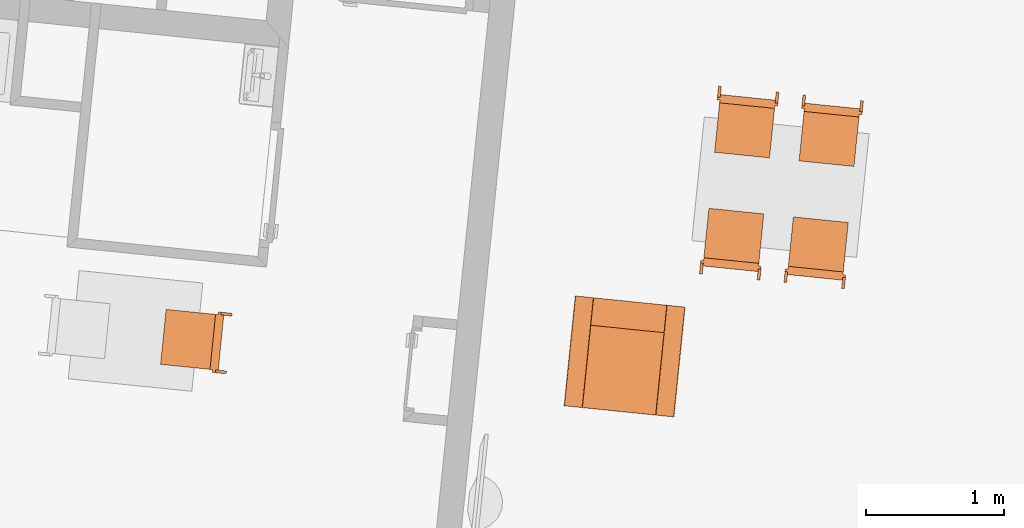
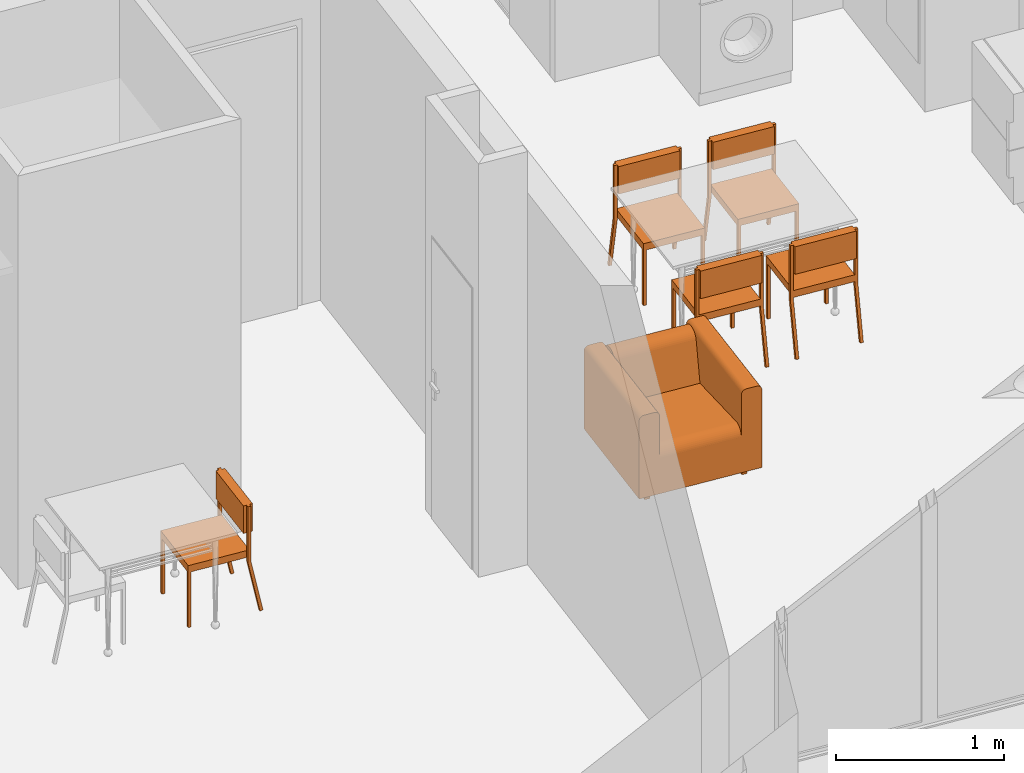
# One storey, part 164 of 171: 6 proxies.
"""IFC2X3 building model written with IfcOpenShell, lengths in millimetres."""

from ifc_helpers import new_model, entity, si_unit, converted_unit, derived_unit, money_unit, direction, frame, origin_with_axes, place, context, subcontext, project, spatial, faceted_brep, source, transform, mapped, type_object, element, save


model = new_model("IFC2X3")

# Units and contexts
model_context = context("Model", 3, precision=0.01, world=origin_with_axes(), true_north=direction((0.0, 1.0)))
body_context = subcontext(model_context, "Body", "Model", "MODEL_VIEW")
ifc_project = project(units=[si_unit("LENGTHUNIT", "METRE", prefix="MILLI"), si_unit("AREAUNIT", "SQUARE_METRE"), si_unit("VOLUMEUNIT", "CUBIC_METRE"), converted_unit("PLANEANGLEUNIT", "DEGREE", entity("IfcPlaneAngleMeasure", 0.0174532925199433), si_unit("PLANEANGLEUNIT", "RADIAN"), dimensions=[0, 0, 0, 0, 0, 0, 0]), money_unit("USD"), converted_unit("TIMEUNIT", "Year", entity("IfcTimeMeasure", 31557600.0), si_unit("TIMEUNIT", "SECOND"), dimensions=[0, 0, 1, 0, 0, 0, 0]), si_unit("MASSUNIT", "GRAM", prefix="KILO"), si_unit("THERMODYNAMICTEMPERATUREUNIT", "DEGREE_CELSIUS"), si_unit("LUMINOUSINTENSITYUNIT", "LUMEN"), si_unit("ENERGYUNIT", "JOULE", prefix="MEGA"), derived_unit("THERMALCONDUCTANCEUNIT", [(si_unit("POWERUNIT", "WATT"), 1), (si_unit("LENGTHUNIT", "METRE"), -1), (si_unit("THERMODYNAMICTEMPERATUREUNIT", "KELVIN"), -1)]), derived_unit("SPECIFICHEATCAPACITYUNIT", [(si_unit("ENERGYUNIT", "JOULE"), 1), (si_unit("MASSUNIT", "GRAM", prefix="KILO"), -1), (si_unit("THERMODYNAMICTEMPERATUREUNIT", "KELVIN"), -1)]), derived_unit("MASSDENSITYUNIT", [(si_unit("MASSUNIT", "GRAM", prefix="KILO"), 1), (si_unit("VOLUMEUNIT", "CUBIC_METRE"), -1)])], contexts=[model_context])

# Site, building, storey
site_placement = place(None, origin_with_axes())
site = spatial("IfcSite", under=ifc_project, at=site_placement, Name="Site", CompositionType="ELEMENT")
building_placement = place(site_placement, origin_with_axes())
building = spatial("IfcBuilding", under=site, at=building_placement, Name="Bâtiment", CompositionType="ELEMENT")
storey_placement = place(building_placement, frame((0.0, 0.0, 3000.0), z_axis=(0.0, 0.0, 1.0), x_axis=(1.0, 0.0, 0.0)))
storey = spatial("IfcBuildingStorey", under=building, at=storey_placement, Name="rdc", CompositionType="ELEMENT", Elevation=3000.0)

# Proxies
building_element_proxy_type = type_object("IfcBuildingElementProxyType", PredefinedType="NOTDEFINED")
shared_shape_1 = source(origin_with_axes(), body_context, "Body", "Brep", [
    faceted_brep([(39.99999978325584, 0.0, 0.0), (19.99999989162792, 0.0, 0.0), (19.99999989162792, 19.99999936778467, 0.0), (39.99999978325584, 19.99999936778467, 0.0), (39.99999978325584, 0.0, 400.0), (19.99999989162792, 0.0, 400.0), (19.99999989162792, 19.99999936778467, 400.0), (39.99999978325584, 19.99999936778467, 400.0)], [[[0, 1, 2, 3]], [[1, 0, 4, 5]], [[2, 1, 5, 6]], [[3, 2, 6, 7]], [[0, 3, 7, 4]], [[5, 4, 7, 6]]]),
    faceted_brep([(419.9999977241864, 0.0, 0.0), (399.9999978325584, 0.0, 0.0), (399.9999978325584, 19.99999936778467, 0.0), (419.9999977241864, 19.99999936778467, 0.0), (419.9999977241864, 0.0, 400.0), (399.9999978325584, 0.0, 400.0), (399.9999978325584, 19.99999936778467, 400.0), (419.9999977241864, 19.99999936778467, 400.0)], [[[0, 1, 2, 3]], [[1, 0, 4, 5]], [[2, 1, 5, 6]], [[3, 2, 6, 7]], [[0, 3, 7, 4]], [[5, 4, 7, 6]]]),
    faceted_brep([(399.9999978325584, 0.0, 400.0000000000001), (39.99999978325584, 0.0, 400.0000000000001), (39.99999978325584, 19.99999936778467, 400.0000000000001), (399.9999978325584, 19.99999936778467, 400.0000000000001), (399.9999978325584, 0.0, 420.0000000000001), (39.99999978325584, 0.0, 420.0000000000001), (39.99999978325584, 19.99999936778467, 420.0000000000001), (399.9999978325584, 19.99999936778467, 420.0000000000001)], [[[0, 1, 2, 3]], [[1, 0, 4, 5]], [[2, 1, 5, 6]], [[3, 2, 6, 7]], [[0, 3, 7, 4]], [[5, 4, 7, 6]]]),
    faceted_brep([(39.99999978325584, 19.99999936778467, 400.0000000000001), (19.99999989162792, 19.99999936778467, 400.0000000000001), (19.99999989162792, 379.9999879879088, 400.0000000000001), (39.99999978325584, 379.9999879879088, 400.0000000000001), (39.99999978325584, 19.99999936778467, 420.0000000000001), (19.99999989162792, 19.99999936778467, 420.0000000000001), (19.99999989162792, 379.9999879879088, 420.0000000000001), (39.99999978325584, 379.9999879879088, 420.0000000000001)], [[[0, 1, 2, 3]], [[1, 0, 4, 5]], [[2, 1, 5, 6]], [[3, 2, 6, 7]], [[0, 3, 7, 4]], [[5, 4, 7, 6]]]),
    faceted_brep([(419.9999977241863, 379.9999879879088, 400.0000000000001), (19.99999989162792, 379.9999879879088, 400.0000000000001), (19.99999989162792, 399.9999873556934, 400.0000000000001), (419.9999977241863, 399.9999873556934, 400.0000000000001), (419.9999977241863, 379.9999879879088, 420.0000000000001), (19.99999989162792, 379.9999879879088, 420.0000000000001), (19.99999989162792, 399.9999873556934, 420.0000000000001), (419.9999977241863, 399.9999873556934, 420.0000000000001)], [[[0, 1, 2, 3]], [[1, 0, 4, 5]], [[2, 1, 5, 6]], [[3, 2, 6, 7]], [[0, 3, 7, 4]], [[5, 4, 7, 6]]]),
    faceted_brep([(419.9999977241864, 19.99999936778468, 400.0000000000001), (399.9999978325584, 19.99999936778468, 400.0000000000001), (399.9999978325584, 379.9999879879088, 400.0000000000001), (419.9999977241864, 379.9999879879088, 400.0000000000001), (419.9999977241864, 19.99999936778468, 420.0000000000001), (399.9999978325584, 19.99999936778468, 420.0000000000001), (399.9999978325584, 379.9999879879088, 420.0000000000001), (419.9999977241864, 379.9999879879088, 420.0000000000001)], [[[0, 1, 2, 3]], [[1, 0, 4, 5]], [[2, 1, 5, 6]], [[3, 2, 6, 7]], [[0, 3, 7, 4]], [[5, 4, 7, 6]]]),
    faceted_brep([(419.9999977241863, 0.0, 400.0), (19.99999989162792, 0.0, 400.0), (19.99999989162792, 399.9999873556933, 400.0), (419.9999977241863, 399.9999873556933, 400.0), (419.9999977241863, 0.0, 450.0), (19.99999989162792, 0.0, 450.0), (19.99999989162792, 399.9999873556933, 450.0), (419.9999977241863, 399.9999873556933, 450.0)], [[[0, 1, 2, 3]], [[1, 0, 4, 5]], [[2, 1, 5, 6]], [[3, 2, 6, 7]], [[0, 3, 7, 4]], [[5, 4, 7, 6]]]),
    faceted_brep([(19.99999989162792, 379.9999879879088, 380.0), (0.0, 379.9999879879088, 380.0), (0.0, 399.9999873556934, 380.0), (19.99999989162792, 399.9999873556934, 380.0), (19.99999989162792, 379.9999879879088, 780.0), (0.0, 379.9999879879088, 780.0), (0.0, 399.9999873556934, 780.0), (19.99999989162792, 399.9999873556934, 780.0)], [[[0, 1, 2, 3]], [[1, 0, 4, 5]], [[2, 1, 5, 6]], [[3, 2, 6, 7]], [[0, 3, 7, 4]], [[5, 4, 7, 6]]]),
    faceted_brep([(439.9999976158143, 379.9999879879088, 380.0), (419.9999977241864, 379.9999879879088, 380.0), (419.9999977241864, 399.9999873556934, 380.0), (439.9999976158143, 399.9999873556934, 380.0), (439.9999976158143, 379.9999879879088, 780.0), (419.9999977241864, 379.9999879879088, 780.0), (419.9999977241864, 399.9999873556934, 780.0), (439.9999976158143, 399.9999873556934, 780.0)], [[[0, 1, 2, 3]], [[1, 0, 4, 5]], [[2, 1, 5, 6]], [[3, 2, 6, 7]], [[0, 3, 7, 4]], [[5, 4, 7, 6]]]),
    faceted_brep([(419.9999977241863, 359.999988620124, 580.0000000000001), (19.99999989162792, 359.999988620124, 580.0000000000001), (19.99999989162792, 419.9999867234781, 580.0000000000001), (419.9999977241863, 419.9999867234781, 580.0000000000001), (419.9999977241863, 359.999988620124, 780.0), (19.99999989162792, 359.999988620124, 780.0), (19.99999989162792, 419.9999867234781, 780.0), (419.9999977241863, 419.9999867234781, 780.0)], [[[0, 1, 2, 3]], [[1, 0, 4, 5]], [[2, 1, 5, 6]], [[3, 2, 6, 7]], [[0, 3, 7, 4]], [[5, 4, 7, 6]]]),
    faceted_brep([(19.99999989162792, 459.9999854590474, 0.0), (0.0, 459.9999854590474, 0.0), (0.0, 479.5709559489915, 4.120326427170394), (19.99999989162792, 479.5709559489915, 4.120326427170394), (19.99999989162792, 379.997669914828, 379.999760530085), (0.0, 379.997669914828, 379.999760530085), (0.0, 399.5686404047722, 384.1200869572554), (19.99999989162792, 399.5686404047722, 384.1200869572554)], [[[0, 1, 2, 3]], [[1, 0, 4, 5]], [[2, 1, 5, 6]], [[3, 2, 6, 7]], [[0, 3, 7, 4]], [[5, 4, 7, 6]]]),
    faceted_brep([(439.9999976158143, 459.9999854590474, 0.0), (419.9999977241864, 459.9999854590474, 0.0), (419.9999977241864, 479.5709559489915, 4.120326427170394), (439.9999976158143, 479.5709559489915, 4.120326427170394), (439.9999976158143, 379.997669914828, 379.999760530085), (419.9999977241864, 379.997669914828, 379.999760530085), (419.9999977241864, 399.5686404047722, 384.1200869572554), (439.9999976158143, 399.5686404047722, 384.1200869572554)], [[[0, 1, 2, 3]], [[1, 0, 4, 5]], [[2, 1, 5, 6]], [[3, 2, 6, 7]], [[0, 3, 7, 4]], [[5, 4, 7, 6]]]),
])
for number, where, z_axis, x_axis, name in (
    (1, (2231889.249444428, -617069.9074694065, 0.0), (0.0, 0.0, 1.0), (-0.100595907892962, -0.9949273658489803, 0.0), "Obj.-027"),
    (2, (2236452.961935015, -616011.5963356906, 0.0), (0.0, 0.0, 1.0), (0.9948759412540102, -0.1011032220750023, 0.0), "Obj.-027"),
    (3, (2235840.988468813, -615949.4051753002, 0.0), (0.0, 0.0, 1.0), (0.9948759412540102, -0.1011032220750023, 0.0), "Obj.-027"),
):
    element("IfcBuildingElementProxy", number, at=place(storey_placement, frame(where, z_axis=z_axis, x_axis=x_axis)), inside=storey, type_object=building_element_proxy_type, Name=name, context=body_context, shape_type="MappedRepresentation", body=[
        mapped(shared_shape_1, transform((0.0, 0.0, 0.0))),
    ])
shared_shape_2 = source(origin_with_axes(), body_context, "Body", "Brep", [
    faceted_brep([(-39.99999978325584, 0.0, 0.0), (-39.99999978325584, 19.99999936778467, 0.0), (-19.99999989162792, 19.99999936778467, 0.0), (-19.99999989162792, 0.0, 0.0), (-39.99999978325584, 0.0, 400.0), (-39.99999978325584, 19.99999936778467, 400.0), (-19.99999989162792, 19.99999936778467, 400.0), (-19.99999989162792, 0.0, 400.0)], [[[0, 1, 2, 3]], [[0, 4, 5, 1]], [[1, 5, 6, 2]], [[2, 6, 7, 3]], [[3, 7, 4, 0]], [[7, 6, 5, 4]]]),
    faceted_brep([(-419.9999977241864, 0.0, 0.0), (-419.9999977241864, 19.99999936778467, 0.0), (-399.9999978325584, 19.99999936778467, 0.0), (-399.9999978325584, 0.0, 0.0), (-419.9999977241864, 0.0, 400.0), (-419.9999977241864, 19.99999936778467, 400.0), (-399.9999978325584, 19.99999936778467, 400.0), (-399.9999978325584, 0.0, 400.0)], [[[0, 1, 2, 3]], [[0, 4, 5, 1]], [[1, 5, 6, 2]], [[2, 6, 7, 3]], [[3, 7, 4, 0]], [[7, 6, 5, 4]]]),
    faceted_brep([(-399.9999978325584, 0.0, 400.0000000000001), (-399.9999978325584, 19.99999936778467, 400.0000000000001), (-39.99999978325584, 19.99999936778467, 400.0000000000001), (-39.99999978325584, 0.0, 400.0000000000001), (-399.9999978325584, 0.0, 420.0000000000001), (-399.9999978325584, 19.99999936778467, 420.0000000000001), (-39.99999978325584, 19.99999936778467, 420.0000000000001), (-39.99999978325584, 0.0, 420.0000000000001)], [[[0, 1, 2, 3]], [[0, 4, 5, 1]], [[1, 5, 6, 2]], [[2, 6, 7, 3]], [[3, 7, 4, 0]], [[7, 6, 5, 4]]]),
    faceted_brep([(-39.99999978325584, 19.99999936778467, 400.0000000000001), (-39.99999978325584, 379.9999879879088, 400.0000000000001), (-19.99999989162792, 379.9999879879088, 400.0000000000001), (-19.99999989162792, 19.99999936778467, 400.0000000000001), (-39.99999978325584, 19.99999936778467, 420.0000000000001), (-39.99999978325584, 379.9999879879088, 420.0000000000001), (-19.99999989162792, 379.9999879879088, 420.0000000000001), (-19.99999989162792, 19.99999936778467, 420.0000000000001)], [[[0, 1, 2, 3]], [[0, 4, 5, 1]], [[1, 5, 6, 2]], [[2, 6, 7, 3]], [[3, 7, 4, 0]], [[7, 6, 5, 4]]]),
    faceted_brep([(-419.9999977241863, 379.9999879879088, 400.0000000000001), (-419.9999977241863, 399.9999873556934, 400.0000000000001), (-19.99999989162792, 399.9999873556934, 400.0000000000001), (-19.99999989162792, 379.9999879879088, 400.0000000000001), (-419.9999977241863, 379.9999879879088, 420.0000000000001), (-419.9999977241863, 399.9999873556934, 420.0000000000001), (-19.99999989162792, 399.9999873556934, 420.0000000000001), (-19.99999989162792, 379.9999879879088, 420.0000000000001)], [[[0, 1, 2, 3]], [[0, 4, 5, 1]], [[1, 5, 6, 2]], [[2, 6, 7, 3]], [[3, 7, 4, 0]], [[7, 6, 5, 4]]]),
    faceted_brep([(-419.9999977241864, 19.99999936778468, 400.0000000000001), (-419.9999977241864, 379.9999879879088, 400.0000000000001), (-399.9999978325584, 379.9999879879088, 400.0000000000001), (-399.9999978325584, 19.99999936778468, 400.0000000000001), (-419.9999977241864, 19.99999936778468, 420.0000000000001), (-419.9999977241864, 379.9999879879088, 420.0000000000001), (-399.9999978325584, 379.9999879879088, 420.0000000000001), (-399.9999978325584, 19.99999936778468, 420.0000000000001)], [[[0, 1, 2, 3]], [[0, 4, 5, 1]], [[1, 5, 6, 2]], [[2, 6, 7, 3]], [[3, 7, 4, 0]], [[7, 6, 5, 4]]]),
    faceted_brep([(-419.9999977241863, 0.0, 400.0), (-419.9999977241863, 399.9999873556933, 400.0), (-19.99999989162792, 399.9999873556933, 400.0), (-19.99999989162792, 0.0, 400.0), (-419.9999977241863, 0.0, 450.0), (-419.9999977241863, 399.9999873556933, 450.0), (-19.99999989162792, 399.9999873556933, 450.0), (-19.99999989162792, 0.0, 450.0)], [[[0, 1, 2, 3]], [[0, 4, 5, 1]], [[1, 5, 6, 2]], [[2, 6, 7, 3]], [[3, 7, 4, 0]], [[7, 6, 5, 4]]]),
    faceted_brep([(-19.99999989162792, 379.9999879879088, 380.0), (-19.99999989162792, 399.9999873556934, 380.0), (0.0, 399.9999873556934, 380.0), (0.0, 379.9999879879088, 380.0), (-19.99999989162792, 379.9999879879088, 780.0), (-19.99999989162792, 399.9999873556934, 780.0), (0.0, 399.9999873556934, 780.0), (0.0, 379.9999879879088, 780.0)], [[[0, 1, 2, 3]], [[0, 4, 5, 1]], [[1, 5, 6, 2]], [[2, 6, 7, 3]], [[3, 7, 4, 0]], [[7, 6, 5, 4]]]),
    faceted_brep([(-439.9999976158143, 379.9999879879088, 380.0), (-439.9999976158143, 399.9999873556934, 380.0), (-419.9999977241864, 399.9999873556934, 380.0), (-419.9999977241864, 379.9999879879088, 380.0), (-439.9999976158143, 379.9999879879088, 780.0), (-439.9999976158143, 399.9999873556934, 780.0), (-419.9999977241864, 399.9999873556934, 780.0), (-419.9999977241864, 379.9999879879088, 780.0)], [[[0, 1, 2, 3]], [[0, 4, 5, 1]], [[1, 5, 6, 2]], [[2, 6, 7, 3]], [[3, 7, 4, 0]], [[7, 6, 5, 4]]]),
    faceted_brep([(-419.9999977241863, 359.999988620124, 580.0000000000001), (-419.9999977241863, 419.9999867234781, 580.0000000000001), (-19.99999989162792, 419.9999867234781, 580.0000000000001), (-19.99999989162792, 359.999988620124, 580.0000000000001), (-419.9999977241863, 359.999988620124, 780.0), (-419.9999977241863, 419.9999867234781, 780.0), (-19.99999989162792, 419.9999867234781, 780.0), (-19.99999989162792, 359.999988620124, 780.0)], [[[0, 1, 2, 3]], [[0, 4, 5, 1]], [[1, 5, 6, 2]], [[2, 6, 7, 3]], [[3, 7, 4, 0]], [[7, 6, 5, 4]]]),
    faceted_brep([(-19.99999989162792, 459.9999854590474, 0.0), (-19.99999989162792, 479.5709559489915, 4.120326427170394), (0.0, 479.5709559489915, 4.120326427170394), (0.0, 459.9999854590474, 0.0), (-19.99999989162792, 379.997669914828, 379.999760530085), (-19.99999989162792, 399.5686404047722, 384.1200869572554), (0.0, 399.5686404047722, 384.1200869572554), (0.0, 379.997669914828, 379.999760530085)], [[[0, 1, 2, 3]], [[0, 4, 5, 1]], [[1, 5, 6, 2]], [[2, 6, 7, 3]], [[3, 7, 4, 0]], [[7, 6, 5, 4]]]),
    faceted_brep([(-439.9999976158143, 459.9999854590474, 0.0), (-439.9999976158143, 479.5709559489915, 4.120326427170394), (-419.9999977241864, 479.5709559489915, 4.120326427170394), (-419.9999977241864, 459.9999854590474, 0.0), (-439.9999976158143, 379.997669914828, 379.999760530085), (-439.9999976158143, 399.5686404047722, 384.1200869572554), (-419.9999977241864, 399.5686404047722, 384.1200869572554), (-419.9999977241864, 379.997669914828, 379.999760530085)], [[[0, 1, 2, 3]], [[0, 4, 5, 1]], [[1, 5, 6, 2]], [[2, 6, 7, 3]], [[3, 7, 4, 0]], [[7, 6, 5, 4]]]),
])
for number, where, z_axis, x_axis, name in (
    (4, (2235799.73255254, -616355.3716486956, 0.0), (0.0, 0.0, 1.0), (-0.9948759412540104, 0.1011032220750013, 0.0), "Obj.-027"),
    (5, (2236411.706018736, -616417.5628091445, 0.0), (0.0, 0.0, 1.0), (-0.9948759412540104, 0.1011032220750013, 0.0), "Obj.-027"),
):
    element("IfcBuildingElementProxy", number, at=place(storey_placement, frame(where, z_axis=z_axis, x_axis=x_axis)), inside=storey, type_object=building_element_proxy_type, Name=name, context=body_context, shape_type="MappedRepresentation", body=[
        mapped(shared_shape_2, transform((0.0, 0.0, 0.0))),
    ])
shared_shape_3 = source(origin_with_axes(), body_context, "Body", "Brep", [
    faceted_brep([(333.3000000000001, 66.7, 0.0), (300.0000000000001, 66.7, 0.0), (300.0000000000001, 100.0, 0.0), (333.3000000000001, 100.0, 0.0), (333.3000000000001, 66.7, 66.69999999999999), (300.0000000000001, 66.7, 66.69999999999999), (300.0000000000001, 100.0, 66.69999999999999), (333.3000000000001, 100.0, 66.69999999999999)], [[[0, 1, 2, 3]], [[1, 0, 4, 5]], [[2, 1, 5, 6]], [[3, 2, 6, 7]], [[0, 3, 7, 4]], [[5, 4, 7, 6]]]),
    faceted_brep([(333.3000000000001, 700.0000000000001, 0.0), (300.0000000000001, 700.0000000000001, 0.0), (300.0000000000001, 733.3000000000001, 0.0), (333.3000000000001, 733.3000000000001, 0.0), (333.3000000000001, 700.0000000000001, 66.69999999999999), (300.0000000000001, 700.0000000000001, 66.69999999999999), (300.0000000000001, 733.3000000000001, 66.69999999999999), (333.3000000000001, 733.3000000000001, 66.69999999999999)], [[[0, 1, 2, 3]], [[1, 0, 4, 5]], [[2, 1, 5, 6]], [[3, 2, 6, 7]], [[0, 3, 7, 4]], [[5, 4, 7, 6]]]),
    faceted_brep([(-300.0000000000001, 66.7, 0.0), (-333.3000000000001, 66.7, 0.0), (-333.3000000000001, 100.0, 0.0), (-300.0000000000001, 100.0, 0.0), (-300.0000000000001, 66.7, 66.69999999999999), (-333.3000000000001, 66.7, 66.69999999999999), (-333.3000000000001, 100.0, 66.69999999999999), (-300.0000000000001, 100.0, 66.69999999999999)], [[[0, 1, 2, 3]], [[1, 0, 4, 5]], [[2, 1, 5, 6]], [[3, 2, 6, 7]], [[0, 3, 7, 4]], [[5, 4, 7, 6]]]),
    faceted_brep([(-300.0000000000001, 700.0000000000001, 0.0), (-333.3000000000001, 700.0000000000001, 0.0), (-333.3000000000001, 733.3000000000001, 0.0), (-300.0000000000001, 733.3000000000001, 0.0), (-300.0000000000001, 700.0000000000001, 66.69999999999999), (-333.3000000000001, 700.0000000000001, 66.69999999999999), (-333.3000000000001, 733.3000000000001, 66.69999999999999), (-300.0000000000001, 733.3000000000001, 66.69999999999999)], [[[0, 1, 2, 3]], [[1, 0, 4, 5]], [[2, 1, 5, 6]], [[3, 2, 6, 7]], [[0, 3, 7, 4]], [[5, 4, 7, 6]]]),
    faceted_brep([(266.7, 800.0, 66.69999999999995), (400.033, 800.0, 66.69999999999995), (400.033, 0.0, 66.69999999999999), (266.7, 0.0, 66.69999999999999), (266.7, 800.0, 67.19999999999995), (266.7, 800.0, 633.37), (266.7, 800.0, 636.2859999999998), (267.713, 800.0, 642.029), (269.707, 800.0, 647.5099999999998), (272.623, 800.0, 652.5599999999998), (276.372, 800.0, 657.0279999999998), (280.84, 800.0, 660.7769999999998), (285.89, 800.0, 663.6929999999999), (291.371, 800.0, 665.6869999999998), (297.114, 800.0, 666.6999999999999), (300.03, 800.0, 666.6999999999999), (366.703, 800.0, 666.6999999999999), (369.619, 800.0, 666.6999999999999), (375.363, 800.0, 665.6869999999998), (380.843, 800.0, 663.6929999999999), (385.894, 800.0, 660.7769999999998), (390.361, 800.0, 657.0279999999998), (394.11, 800.0, 652.5599999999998), (397.026, 800.0, 647.5099999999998), (399.021, 800.0, 642.029), (400.033, 800.0, 636.2859999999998), (400.033, 800.0, 633.37), (400.033, 0.0, 633.37), (400.033, 0.0, 636.2859999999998), (399.021, 0.0, 642.029), (397.026, 0.0, 647.5099999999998), (394.11, 0.0, 652.5599999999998), (390.361, 0.0, 657.0279999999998), (385.894, 0.0, 660.7769999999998), (380.843, 0.0, 663.6929999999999), (375.363, 0.0, 665.6869999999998), (369.619, 0.0, 666.6999999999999), (366.703, 0.0, 666.6999999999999), (300.03, 0.0, 666.6999999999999), (297.114, 0.0, 666.6999999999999), (291.371, 0.0, 665.6869999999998), (285.89, 0.0, 663.6929999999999), (280.84, 0.0, 660.7769999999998), (276.372, 0.0, 657.0279999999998), (272.623, 0.0, 652.5599999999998), (269.707, 0.0, 647.5099999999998), (267.713, 0.0, 642.029), (266.7, 0.0, 636.2859999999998), (266.7, 0.0, 633.37), (266.7, 0.0, 67.19999999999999)], [[[0, 1, 2, 3]], [[0, 4, 5, 6, 7, 8, 9, 10, 11, 12, 13, 14, 15, 16, 17, 18, 19, 20, 21, 22, 23, 24, 25, 26, 1]], [[1, 26, 27, 2]], [[3, 2, 27, 28, 29, 30, 31, 32, 33, 34, 35, 36, 37, 38, 39, 40, 41, 42, 43, 44, 45, 46, 47, 48, 49]], [[4, 0, 3, 49]], [[5, 4, 49, 48]], [[6, 5, 48, 47]], [[7, 6, 47, 46]], [[8, 7, 46, 45]], [[9, 8, 45, 44]], [[10, 9, 44, 43]], [[11, 10, 43, 42]], [[12, 11, 42, 41]], [[13, 12, 41, 40]], [[14, 13, 40, 39]], [[15, 14, 39, 38]], [[16, 15, 38, 37]], [[17, 16, 37, 36]], [[18, 17, 36, 35]], [[19, 18, 35, 34]], [[20, 19, 34, 33]], [[21, 20, 33, 32]], [[22, 21, 32, 31]], [[23, 22, 31, 30]], [[24, 23, 30, 29]], [[25, 24, 29, 28]], [[26, 25, 28, 27]]]),
    faceted_brep([(-400.0, 800.0, 66.69999999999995), (-266.667, 800.0, 66.69999999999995), (-266.667, 0.0, 66.69999999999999), (-400.0, 0.0, 66.69999999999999), (-400.0, 800.0, 67.19999999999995), (-400.0, 800.0, 633.37), (-400.0, 800.0, 636.2859999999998), (-398.987, 800.0, 642.029), (-396.9930000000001, 800.0, 647.5099999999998), (-394.077, 800.0, 652.5599999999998), (-390.328, 800.0, 657.0279999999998), (-385.86, 800.0, 660.7769999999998), (-380.8100000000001, 800.0, 663.6929999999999), (-375.329, 800.0, 665.6869999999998), (-369.586, 800.0, 666.6999999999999), (-366.67, 800.0, 666.6999999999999), (-299.997, 800.0, 666.6999999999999), (-297.081, 800.0, 666.6999999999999), (-291.337, 800.0, 665.6869999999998), (-285.857, 800.0, 663.6929999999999), (-280.806, 800.0, 660.7769999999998), (-276.339, 800.0, 657.0279999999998), (-272.59, 800.0, 652.5599999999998), (-269.674, 800.0, 647.5099999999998), (-267.679, 800.0, 642.029), (-266.667, 800.0, 636.2859999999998), (-266.667, 800.0, 633.37), (-266.667, 0.0, 633.37), (-266.667, 0.0, 636.2859999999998), (-267.679, 0.0, 642.029), (-269.674, 0.0, 647.5099999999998), (-272.59, 0.0, 652.5599999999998), (-276.339, 0.0, 657.0279999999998), (-280.806, 0.0, 660.7769999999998), (-285.857, 0.0, 663.6929999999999), (-291.337, 0.0, 665.6869999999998), (-297.081, 0.0, 666.6999999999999), (-299.997, 0.0, 666.6999999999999), (-366.67, 0.0, 666.6999999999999), (-369.586, 0.0, 666.6999999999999), (-375.329, 0.0, 665.6869999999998), (-380.8100000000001, 0.0, 663.6929999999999), (-385.86, 0.0, 660.7769999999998), (-390.328, 0.0, 657.0279999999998), (-394.077, 0.0, 652.5599999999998), (-396.9930000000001, 0.0, 647.5099999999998), (-398.987, 0.0, 642.029), (-400.0, 0.0, 636.2859999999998), (-400.0, 0.0, 633.37), (-400.0, 0.0, 67.19999999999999)], [[[0, 1, 2, 3]], [[0, 4, 5, 6, 7, 8, 9, 10, 11, 12, 13, 14, 15, 16, 17, 18, 19, 20, 21, 22, 23, 24, 25, 26, 1]], [[1, 26, 27, 2]], [[3, 2, 27, 28, 29, 30, 31, 32, 33, 34, 35, 36, 37, 38, 39, 40, 41, 42, 43, 44, 45, 46, 47, 48, 49]], [[4, 0, 3, 49]], [[5, 4, 49, 48]], [[6, 5, 48, 47]], [[7, 6, 47, 46]], [[8, 7, 46, 45]], [[9, 8, 45, 44]], [[10, 9, 44, 43]], [[11, 10, 43, 42]], [[12, 11, 42, 41]], [[13, 12, 41, 40]], [[14, 13, 40, 39]], [[15, 14, 39, 38]], [[16, 15, 38, 37]], [[17, 16, 37, 36]], [[18, 17, 36, 35]], [[19, 18, 35, 34]], [[20, 19, 34, 33]], [[21, 20, 33, 32]], [[22, 21, 32, 31]], [[23, 22, 31, 30]], [[24, 23, 30, 29]], [[25, 24, 29, 28]], [[26, 25, 28, 27]]]),
    faceted_brep([(-266.6667, 0.0, 66.69999999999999), (-266.6667, 800.0, 66.69999999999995), (266.6333, 800.0, 66.69999999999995), (266.6333, 0.0, 66.69999999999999), (-266.6667, 0.0, 67.2), (-266.6667, 0.0, 325.5449999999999), (-266.6667, -0.2359999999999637, 327.1109999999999), (-266.6667, 1.052000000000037, 338.7049999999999), (-266.6667, 4.334000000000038, 349.8989999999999), (-266.6667, 9.510000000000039, 360.3539999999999), (-266.6667, 16.42300000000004, 369.7509999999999), (-266.6667, 24.86200000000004, 377.8049999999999), (-266.6667, 34.57200000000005, 384.271), (-266.6667, 45.25800000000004, 388.9519999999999), (-266.6667, 56.59300000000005, 391.707), (-266.6667, 68.23500000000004, 392.4519999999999), (-266.6667, 74.03200000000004, 391.808), (-266.6667, 600.0000000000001, 333.3669999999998), (-266.6667, 600.0980000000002, 333.8569999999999), (-266.6667, 655.9480000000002, 613.1049999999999), (-266.6667, 656.6790000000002, 617.351), (-266.6667, 660.6690000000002, 628.314), (-266.6667, 666.5020000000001, 638.4159999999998), (-266.6667, 674.0000000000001, 647.3529999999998), (-266.6667, 682.937, 654.8509999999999), (-266.6667, 693.0390000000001, 660.6839999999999), (-266.6667, 704.0020000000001, 664.6739999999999), (-266.6667, 715.4900000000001, 666.6999999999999), (-266.6667, 721.3230000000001, 666.6999999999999), (-266.6667, 733.33, 666.6999999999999), (-266.6667, 739.163, 666.6999999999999), (-266.6667, 750.6510000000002, 664.6739999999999), (-266.6667, 761.614, 660.6839999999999), (-266.6667, 771.716, 654.8509999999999), (-266.6667, 780.653, 647.3529999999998), (-266.6667, 788.1510000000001, 638.4159999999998), (-266.6667, 793.984, 628.314), (-266.6667, 797.974, 617.351), (-266.6667, 800.0, 605.8629999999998), (-266.6667, 800.0, 600.0299999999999), (266.6333, 800.0, 600.0299999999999), (266.6333, 800.0, 605.8629999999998), (266.6333, 797.974, 617.351), (266.6333, 793.984, 628.314), (266.6333, 788.1510000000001, 638.4159999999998), (266.6333, 780.653, 647.3529999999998), (266.6333, 771.716, 654.8509999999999), (266.6333, 761.614, 660.6839999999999), (266.6333, 750.6510000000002, 664.6739999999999), (266.6333, 739.163, 666.6999999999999), (266.6333, 733.33, 666.6999999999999), (266.6333, 721.3230000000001, 666.6999999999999), (266.6333, 715.4900000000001, 666.6999999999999), (266.6333, 704.0020000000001, 664.6739999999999), (266.6333, 693.0390000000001, 660.6839999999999), (266.6333, 682.937, 654.8509999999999), (266.6333, 674.0000000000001, 647.3529999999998), (266.6333, 666.5020000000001, 638.4159999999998), (266.6333, 660.6690000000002, 628.314), (266.6333, 656.6790000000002, 617.351), (266.6333, 655.9480000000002, 613.1049999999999), (266.6333, 600.0980000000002, 333.8569999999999), (266.6333, 600.0000000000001, 333.3669999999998), (266.6333, 74.03200000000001, 391.808), (266.6333, 68.23500000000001, 392.4519999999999), (266.6333, 56.59300000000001, 391.707), (266.6333, 45.25800000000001, 388.9519999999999), (266.6333, 34.57200000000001, 384.271), (266.6333, 24.86200000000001, 377.8049999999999), (266.6333, 16.42300000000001, 369.7509999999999), (266.6333, 9.510000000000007, 360.3539999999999), (266.6333, 4.334000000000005, 349.8989999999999), (266.6333, 1.052000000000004, 338.7049999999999), (266.6333, -0.2359999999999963, 327.1109999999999), (266.6333, 0.0, 325.5449999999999), (266.6333, 0.0, 67.2)], [[[0, 1, 2, 3]], [[0, 4, 5, 6, 7, 8, 9, 10, 11, 12, 13, 14, 15, 16, 17, 18, 19, 20, 21, 22, 23, 24, 25, 26, 27, 28, 29, 30, 31, 32, 33, 34, 35, 36, 37, 38, 39, 1]], [[1, 39, 40, 2]], [[3, 2, 40, 41, 42, 43, 44, 45, 46, 47, 48, 49, 50, 51, 52, 53, 54, 55, 56, 57, 58, 59, 60, 61, 62, 63, 64, 65, 66, 67, 68, 69, 70, 71, 72, 73, 74, 75]], [[4, 0, 3, 75]], [[5, 4, 75, 74]], [[6, 5, 74, 73]], [[7, 6, 73, 72]], [[8, 7, 72, 71]], [[9, 8, 71, 70]], [[10, 9, 70, 69]], [[11, 10, 69, 68]], [[12, 11, 68, 67]], [[13, 12, 67, 66]], [[14, 13, 66, 65]], [[15, 14, 65, 64]], [[16, 15, 64, 63]], [[17, 16, 63, 62]], [[18, 17, 62, 61]], [[19, 18, 61, 60]], [[20, 19, 60, 59]], [[21, 20, 59, 58]], [[22, 21, 58, 57]], [[23, 22, 57, 56]], [[24, 23, 56, 55]], [[25, 24, 55, 54]], [[26, 25, 54, 53]], [[27, 26, 53, 52]], [[28, 27, 52, 51]], [[29, 28, 51, 50]], [[30, 29, 50, 49]], [[31, 30, 49, 48]], [[32, 31, 48, 47]], [[33, 32, 47, 46]], [[34, 33, 46, 45]], [[35, 34, 45, 44]], [[36, 35, 44, 43]], [[37, 36, 43, 42]], [[38, 37, 42, 41]], [[39, 38, 41, 40]]]),
])
proxy_placement = place(storey_placement, frame((2235168.423697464, -617828.3843908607, 25.00000000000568), z_axis=(0.0, 0.0, 1.0), x_axis=(0.9948759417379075, -0.1011032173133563, 0.0)))
element("IfcBuildingElementProxy", 6, at=proxy_placement, inside=storey, type_object=building_element_proxy_type, Name="Obj.-034", context=body_context, shape_type="MappedRepresentation", body=[
    mapped(shared_shape_3, transform((0.0, 0.0, 0.0))),
])

save(model, "model.ifc")
